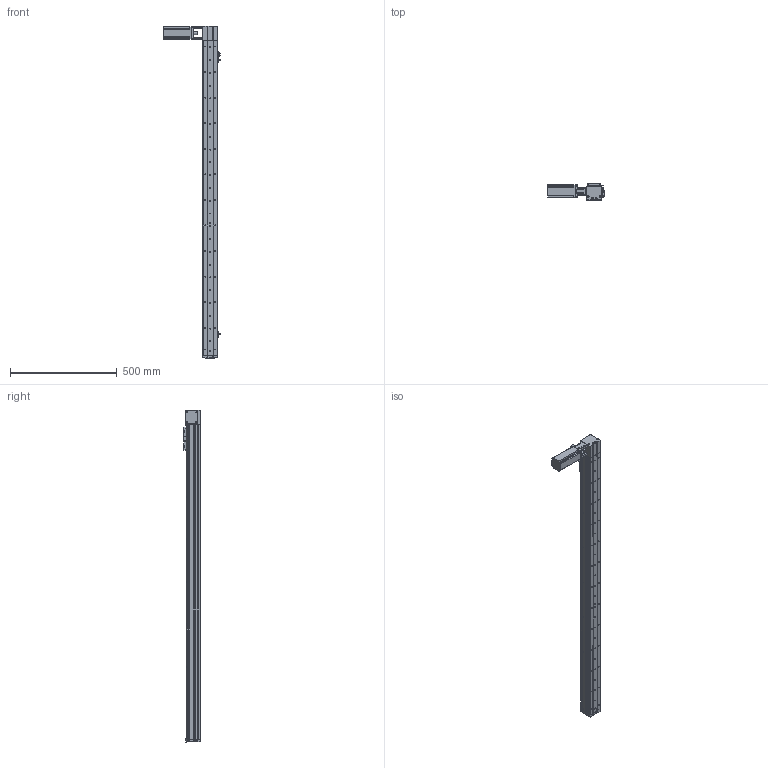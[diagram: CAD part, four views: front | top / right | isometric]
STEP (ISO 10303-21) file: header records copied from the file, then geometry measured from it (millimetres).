
FILE_DESCRIPTION (( 'STEP AP214' ), '1' );
FILE_NAME ('KSD68BS-S1300-MLT-CR.STEP', '2019-08-28T03:44:25', ( '微软用户' ), ( '微软中国' ), 'SwSTEP 2.0', 'SolidWorks 2014', '' );
FILE_SCHEMA (( 'AUTOMOTIVE_DESIGN' ));
Length unit declared in the file: millimetre
Products named in the file (13): 100遵鎮湛假蚾啣1; KSD68BS 1300行程盖板全封闭; 68遵裔啣揤啣1; 68宽单导轨全封闭丝杆传动安装板1防护罩; KSD68BS 1300行程侧板全封闭; 68宽单导轨全封闭同步带端板; 68单导轨全封闭同步带电机座右; 68单导轨全封闭同步带安装板; 感应片68宽全封闭; U倰嫖萇EEㄜSX672; 台达ECMA－C20604AS伺服电机（400W); KSD68BS 1300行程底板全封闭; KSD68BS-S1300-MLT-CR
Assembly tree (16 placements, depth 2):
  KSD68BS-S1300-MLT-CR
    KSD68BS 1300行程底板全封闭
    台达ECMA－C20604AS伺服电机（400W)
    U倰嫖萇EEㄜSX672  x3
    感应片68宽全封闭
    68单导轨全封闭同步带安装板
    68单导轨全封闭同步带电机座右
    68宽单导轨全封闭同步带端板
    KSD68BS 1300行程侧板全封闭  x2
    68宽单导轨全封闭丝杆传动安装板1防护罩
    68遵裔啣揤啣1  x2
    KSD68BS 1300行程盖板全封闭
    100遵鎮湛假蚾啣1
Bounding box: 266.4 x 77 x 1558.1 mm (x, y, z)
Volume: 2889732.5 mm3; surface area: 1124776.8 mm2
Topology: 17 solids, 17 shells, 1514 faces, 4346 edges, 2767 vertices
Faces by surface type: cylinder 730, plane 604, cone 180
Entity records: 48845 total; most frequent: CARTESIAN_POINT 8411, DIRECTION 7226, ORIENTED_EDGE 6912, EDGE_CURVE 3456, AXIS2_PLACEMENT_3D 2628, VERTEX_POINT 2265, VECTOR 1970, LINE 1970
